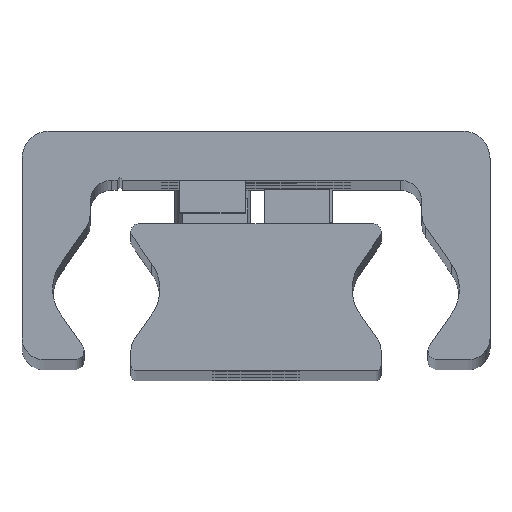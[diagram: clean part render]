
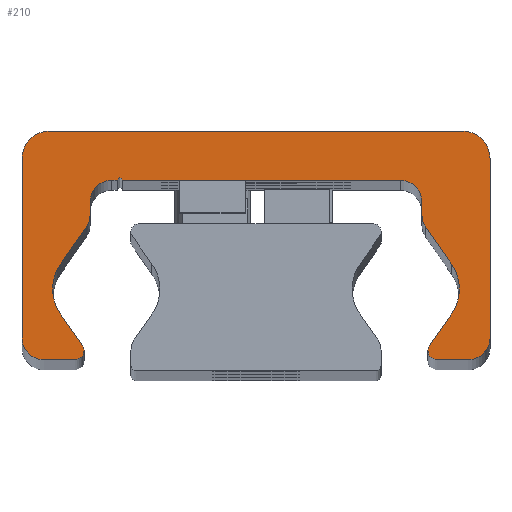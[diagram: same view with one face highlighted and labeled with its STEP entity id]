
A CAD part, top view. The second image highlights one B-rep face of the part: STEP entity #210.
In plain terms, the highlighted planar face has unit normal (0, 0, 1).
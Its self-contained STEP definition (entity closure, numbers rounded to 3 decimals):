
#210=ADVANCED_FACE('',(#536),#537,.T.);
#536=FACE_OUTER_BOUND('',#863,.T.);
#537=PLANE('',#864);
#863=EDGE_LOOP('',(#1986,#1987,#1988,#1989,#1990,#1991,#1992,#1993,#1994,#1995,#1996,#1997,#1998,#1999,#2000,#2001,#2002,#2003,#2004,#2005,#2006,#2007,#2008,#2009,#2010,#2011,#2012,#2013,#2014,#2015));
#864=AXIS2_PLACEMENT_3D('',#2016,#2017,#2018);
#1986=ORIENTED_EDGE('',*,*,#2249,.F.);
#1987=ORIENTED_EDGE('',*,*,#2422,.F.);
#1988=ORIENTED_EDGE('',*,*,#2235,.F.);
#1989=ORIENTED_EDGE('',*,*,#2421,.F.);
#1990=ORIENTED_EDGE('',*,*,#2417,.F.);
#1991=ORIENTED_EDGE('',*,*,#2414,.F.);
#1992=ORIENTED_EDGE('',*,*,#2411,.F.);
#1993=ORIENTED_EDGE('',*,*,#2408,.F.);
#1994=ORIENTED_EDGE('',*,*,#2405,.F.);
#1995=ORIENTED_EDGE('',*,*,#2402,.F.);
#1996=ORIENTED_EDGE('',*,*,#2399,.F.);
#1997=ORIENTED_EDGE('',*,*,#2396,.F.);
#1998=ORIENTED_EDGE('',*,*,#2393,.F.);
#1999=ORIENTED_EDGE('',*,*,#2390,.F.);
#2000=ORIENTED_EDGE('',*,*,#2241,.F.);
#2001=ORIENTED_EDGE('',*,*,#2388,.F.);
#2002=ORIENTED_EDGE('',*,*,#2243,.F.);
#2003=ORIENTED_EDGE('',*,*,#2387,.F.);
#2004=ORIENTED_EDGE('',*,*,#2383,.F.);
#2005=ORIENTED_EDGE('',*,*,#2380,.F.);
#2006=ORIENTED_EDGE('',*,*,#2377,.F.);
#2007=ORIENTED_EDGE('',*,*,#2374,.F.);
#2008=ORIENTED_EDGE('',*,*,#2371,.F.);
#2009=ORIENTED_EDGE('',*,*,#2368,.F.);
#2010=ORIENTED_EDGE('',*,*,#2365,.F.);
#2011=ORIENTED_EDGE('',*,*,#2362,.F.);
#2012=ORIENTED_EDGE('',*,*,#2359,.F.);
#2013=ORIENTED_EDGE('',*,*,#2356,.F.);
#2014=ORIENTED_EDGE('',*,*,#2353,.F.);
#2015=ORIENTED_EDGE('',*,*,#2350,.F.);
#2016=CARTESIAN_POINT('',(-0.023,14.187,530.0));
#2017=DIRECTION('',(0.0,0.0,1.0));
#2018=DIRECTION('',(1.0,0.0,0.0));
#2235=EDGE_CURVE('',#2718,#2721,#2722,.T.);
#2241=EDGE_CURVE('',#2731,#2727,#2733,.T.);
#2243=EDGE_CURVE('',#2734,#2737,#2738,.T.);
#2249=EDGE_CURVE('',#2747,#2743,#2749,.T.);
#2350=EDGE_CURVE('',#2743,#2912,#2913,.T.);
#2353=EDGE_CURVE('',#2912,#2917,#2918,.T.);
#2356=EDGE_CURVE('',#2917,#2922,#2923,.T.);
#2359=EDGE_CURVE('',#2922,#2927,#2928,.T.);
#2362=EDGE_CURVE('',#2927,#2932,#2933,.T.);
#2365=EDGE_CURVE('',#2932,#2937,#2938,.T.);
#2368=EDGE_CURVE('',#2937,#2942,#2943,.T.);
#2371=EDGE_CURVE('',#2942,#2947,#2948,.T.);
#2374=EDGE_CURVE('',#2947,#2952,#2953,.T.);
#2377=EDGE_CURVE('',#2952,#2957,#2958,.T.);
#2380=EDGE_CURVE('',#2957,#2962,#2963,.T.);
#2383=EDGE_CURVE('',#2962,#2967,#2968,.T.);
#2387=EDGE_CURVE('',#2967,#2734,#2973,.T.);
#2388=EDGE_CURVE('',#2737,#2731,#2974,.T.);
#2390=EDGE_CURVE('',#2727,#2976,#2977,.T.);
#2393=EDGE_CURVE('',#2976,#2981,#2982,.T.);
#2396=EDGE_CURVE('',#2981,#2986,#2987,.T.);
#2399=EDGE_CURVE('',#2986,#2991,#2992,.T.);
#2402=EDGE_CURVE('',#2991,#2996,#2997,.T.);
#2405=EDGE_CURVE('',#2996,#3001,#3002,.T.);
#2408=EDGE_CURVE('',#3001,#3006,#3007,.T.);
#2411=EDGE_CURVE('',#3006,#3011,#3012,.T.);
#2414=EDGE_CURVE('',#3011,#3016,#3017,.T.);
#2417=EDGE_CURVE('',#3016,#3021,#3022,.T.);
#2421=EDGE_CURVE('',#3021,#2718,#3027,.T.);
#2422=EDGE_CURVE('',#2721,#2747,#3028,.T.);
#2718=VERTEX_POINT('',#3426);
#2721=VERTEX_POINT('',#3430);
#2722=CIRCLE('',#3431,0.85);
#2727=VERTEX_POINT('',#3437);
#2731=VERTEX_POINT('',#3442);
#2733=CIRCLE('',#3445,0.85);
#2734=VERTEX_POINT('',#3446);
#2737=VERTEX_POINT('',#3450);
#2738=CIRCLE('',#3451,4.);
#2743=VERTEX_POINT('',#3457);
#2747=VERTEX_POINT('',#3462);
#2749=CIRCLE('',#3465,4.);
#2912=VERTEX_POINT('',#3682);
#2913=CIRCLE('',#3683,4.);
#2917=VERTEX_POINT('',#3688);
#2918=LINE('',#3689,#3690);
#2922=VERTEX_POINT('',#3696);
#2923=CIRCLE('',#3697,2.);
#2927=VERTEX_POINT('',#3702);
#2928=LINE('',#3703,#3704);
#2932=VERTEX_POINT('',#3710);
#2933=CIRCLE('',#3711,2.0);
#2937=VERTEX_POINT('',#3716);
#2938=LINE('',#3717,#3718);
#2942=VERTEX_POINT('',#3724);
#2943=CIRCLE('',#3725,0.25);
#2947=VERTEX_POINT('',#3730);
#2948=LINE('',#3731,#3732);
#2952=VERTEX_POINT('',#3738);
#2953=CIRCLE('',#3739,2.0);
#2957=VERTEX_POINT('',#3744);
#2958=LINE('',#3745,#3746);
#2962=VERTEX_POINT('',#3752);
#2963=CIRCLE('',#3753,2.0);
#2967=VERTEX_POINT('',#3758);
#2968=LINE('',#3759,#3760);
#2973=CIRCLE('',#3767,4.);
#2974=LINE('',#3768,#3769);
#2976=VERTEX_POINT('',#3772);
#2977=CIRCLE('',#3773,0.85);
#2981=VERTEX_POINT('',#3778);
#2982=LINE('',#3779,#3780);
#2986=VERTEX_POINT('',#3786);
#2987=CIRCLE('',#3787,2.);
#2991=VERTEX_POINT('',#3792);
#2992=LINE('',#3793,#3794);
#2996=VERTEX_POINT('',#3800);
#2997=CIRCLE('',#3801,2.5);
#3001=VERTEX_POINT('',#3806);
#3002=LINE('',#3807,#3808);
#3006=VERTEX_POINT('',#3814);
#3007=CIRCLE('',#3815,2.5);
#3011=VERTEX_POINT('',#3820);
#3012=LINE('',#3821,#3822);
#3016=VERTEX_POINT('',#3828);
#3017=CIRCLE('',#3829,2.);
#3021=VERTEX_POINT('',#3834);
#3022=LINE('',#3835,#3836);
#3027=CIRCLE('',#3843,0.85);
#3028=LINE('',#3844,#3845);
#3426=CARTESIAN_POINT('',(15.8,1.859,530.0));
#3430=CARTESIAN_POINT('',(15.922,2.298,530.0));
#3431=AXIS2_PLACEMENT_3D('',#4191,#4192,#4193);
#3437=CARTESIAN_POINT('',(-15.8,1.859,530.0));
#3442=CARTESIAN_POINT('',(-15.922,2.298,530.0));
#3445=AXIS2_PLACEMENT_3D('',#4203,#4204,#4205);
#3446=CARTESIAN_POINT('',(-18.688,7.509,530.0));
#3450=CARTESIAN_POINT('',(-17.964,5.214,530.0));
#3451=AXIS2_PLACEMENT_3D('',#4207,#4208,#4209);
#3457=CARTESIAN_POINT('',(18.688,7.509,530.0));
#3462=CARTESIAN_POINT('',(17.964,5.214,530.0));
#3465=AXIS2_PLACEMENT_3D('',#4219,#4220,#4221);
#3682=CARTESIAN_POINT('',(17.964,9.803,530.0));
#3683=AXIS2_PLACEMENT_3D('',#4414,#4415,#4416);
#3688=CARTESIAN_POINT('',(15.612,13.163,530.0));
#3689=CARTESIAN_POINT('',(15.612,13.163,530.0));
#3690=VECTOR('',#4421,1.0);
#3696=CARTESIAN_POINT('',(15.25,14.31,530.0));
#3697=AXIS2_PLACEMENT_3D('',#4424,#4425,#4426);
#3702=CARTESIAN_POINT('',(15.25,15.509,530.0));
#3703=CARTESIAN_POINT('',(15.25,15.509,530.0));
#3704=VECTOR('',#4431,1.0);
#3710=CARTESIAN_POINT('',(13.25,17.509,530.0));
#3711=AXIS2_PLACEMENT_3D('',#4434,#4435,#4436);
#3716=CARTESIAN_POINT('',(-12.25,17.509,530.0));
#3717=CARTESIAN_POINT('',(-12.25,17.509,530.0));
#3718=VECTOR('',#4441,1.0);
#3724=CARTESIAN_POINT('',(-12.75,17.509,530.0));
#3725=AXIS2_PLACEMENT_3D('',#4444,#4445,#4446);
#3730=CARTESIAN_POINT('',(-13.25,17.509,530.0));
#3731=CARTESIAN_POINT('',(-13.25,17.509,530.0));
#3732=VECTOR('',#4451,1.0);
#3738=CARTESIAN_POINT('',(-15.25,15.509,530.0));
#3739=AXIS2_PLACEMENT_3D('',#4454,#4455,#4456);
#3744=CARTESIAN_POINT('',(-15.25,14.31,530.0));
#3745=CARTESIAN_POINT('',(-15.25,14.31,530.0));
#3746=VECTOR('',#4461,1.0);
#3752=CARTESIAN_POINT('',(-15.612,13.163,530.0));
#3753=AXIS2_PLACEMENT_3D('',#4464,#4465,#4466);
#3758=CARTESIAN_POINT('',(-17.964,9.803,530.0));
#3759=CARTESIAN_POINT('',(-17.964,9.803,530.0));
#3760=VECTOR('',#4471,1.0);
#3767=AXIS2_PLACEMENT_3D('',#4477,#4478,#4479);
#3768=CARTESIAN_POINT('',(-15.922,2.298,530.0));
#3769=VECTOR('',#4480,1.0);
#3772=CARTESIAN_POINT('',(-16.65,1.009,530.0));
#3773=AXIS2_PLACEMENT_3D('',#4482,#4483,#4484);
#3778=CARTESIAN_POINT('',(-19.5,1.009,530.0));
#3779=CARTESIAN_POINT('',(-19.5,1.009,530.0));
#3780=VECTOR('',#4489,1.0);
#3786=CARTESIAN_POINT('',(-21.5,3.009,530.0));
#3787=AXIS2_PLACEMENT_3D('',#4492,#4493,#4494);
#3792=CARTESIAN_POINT('',(-21.5,19.509,530.0));
#3793=CARTESIAN_POINT('',(-21.5,19.509,530.0));
#3794=VECTOR('',#4499,1.0);
#3800=CARTESIAN_POINT('',(-19.0,22.009,530.0));
#3801=AXIS2_PLACEMENT_3D('',#4502,#4503,#4504);
#3806=CARTESIAN_POINT('',(19.0,22.009,530.0));
#3807=CARTESIAN_POINT('',(19.0,22.009,530.0));
#3808=VECTOR('',#4509,1.0);
#3814=CARTESIAN_POINT('',(21.5,19.509,530.0));
#3815=AXIS2_PLACEMENT_3D('',#4512,#4513,#4514);
#3820=CARTESIAN_POINT('',(21.5,3.009,530.0));
#3821=CARTESIAN_POINT('',(21.5,3.009,530.0));
#3822=VECTOR('',#4519,1.0);
#3828=CARTESIAN_POINT('',(19.5,1.009,530.0));
#3829=AXIS2_PLACEMENT_3D('',#4522,#4523,#4524);
#3834=CARTESIAN_POINT('',(16.65,1.009,530.0));
#3835=CARTESIAN_POINT('',(16.65,1.009,530.0));
#3836=VECTOR('',#4529,1.0);
#3843=AXIS2_PLACEMENT_3D('',#4535,#4536,#4537);
#3844=CARTESIAN_POINT('',(17.964,5.214,530.0));
#3845=VECTOR('',#4538,1.0);
#4191=CARTESIAN_POINT('',(16.65,1.859,530.0));
#4192=DIRECTION('',(0.0,0.0,-1.0));
#4193=DIRECTION('',(1.0,0.0,0.0));
#4203=CARTESIAN_POINT('',(-16.65,1.859,530.0));
#4204=DIRECTION('',(0.0,0.0,-1.0));
#4205=DIRECTION('',(1.0,0.0,0.0));
#4207=CARTESIAN_POINT('',(-14.688,7.509,530.0));
#4208=DIRECTION('',(0.0,0.0,1.0));
#4209=DIRECTION('',(1.0,0.0,0.0));
#4219=CARTESIAN_POINT('',(14.688,7.509,530.0));
#4220=DIRECTION('',(0.0,0.0,1.0));
#4221=DIRECTION('',(1.0,0.0,0.0));
#4414=CARTESIAN_POINT('',(14.688,7.509,530.0));
#4415=DIRECTION('',(0.0,0.0,1.0));
#4416=DIRECTION('',(1.0,0.0,0.0));
#4421=DIRECTION('',(-0.574,0.819,0.0));
#4424=CARTESIAN_POINT('',(17.25,14.31,530.0));
#4425=DIRECTION('',(0.0,0.0,-1.0));
#4426=DIRECTION('',(1.0,0.0,0.0));
#4431=DIRECTION('',(0.0,1.0,0.0));
#4434=CARTESIAN_POINT('',(13.25,15.509,530.0));
#4435=DIRECTION('',(0.0,0.0,1.0));
#4436=DIRECTION('',(1.0,0.0,0.0));
#4441=DIRECTION('',(-1.0,-0.0,-0.0));
#4444=CARTESIAN_POINT('',(-12.5,17.509,530.0));
#4445=DIRECTION('',(0.0,0.0,1.0));
#4446=DIRECTION('',(1.0,0.0,0.0));
#4451=DIRECTION('',(-1.0,-0.0,-0.0));
#4454=CARTESIAN_POINT('',(-13.25,15.509,530.0));
#4455=DIRECTION('',(0.0,0.0,1.0));
#4456=DIRECTION('',(1.0,0.0,0.0));
#4461=DIRECTION('',(-0.0,-1.0,-0.0));
#4464=CARTESIAN_POINT('',(-17.25,14.31,530.0));
#4465=DIRECTION('',(0.0,0.0,-1.0));
#4466=DIRECTION('',(1.0,0.0,0.0));
#4471=DIRECTION('',(-0.574,-0.819,-0.0));
#4477=CARTESIAN_POINT('',(-14.688,7.509,530.0));
#4478=DIRECTION('',(0.0,0.0,1.0));
#4479=DIRECTION('',(1.0,0.0,0.0));
#4480=DIRECTION('',(0.574,-0.819,0.0));
#4482=CARTESIAN_POINT('',(-16.65,1.859,530.0));
#4483=DIRECTION('',(0.0,0.0,-1.0));
#4484=DIRECTION('',(1.0,0.0,0.0));
#4489=DIRECTION('',(-1.0,-0.0,-0.0));
#4492=CARTESIAN_POINT('',(-19.5,3.009,530.0));
#4493=DIRECTION('',(0.0,0.0,-1.0));
#4494=DIRECTION('',(1.0,0.0,0.0));
#4499=DIRECTION('',(0.0,1.0,0.0));
#4502=CARTESIAN_POINT('',(-19.0,19.509,530.0));
#4503=DIRECTION('',(0.0,0.0,-1.0));
#4504=DIRECTION('',(1.0,0.0,0.0));
#4509=DIRECTION('',(1.0,0.0,0.0));
#4512=CARTESIAN_POINT('',(19.0,19.509,530.0));
#4513=DIRECTION('',(0.0,0.0,-1.0));
#4514=DIRECTION('',(1.0,0.0,0.0));
#4519=DIRECTION('',(-0.0,-1.0,-0.0));
#4522=CARTESIAN_POINT('',(19.5,3.009,530.0));
#4523=DIRECTION('',(0.0,0.0,-1.0));
#4524=DIRECTION('',(1.0,0.0,0.0));
#4529=DIRECTION('',(-1.0,-0.0,-0.0));
#4535=CARTESIAN_POINT('',(16.65,1.859,530.0));
#4536=DIRECTION('',(0.0,0.0,-1.0));
#4537=DIRECTION('',(1.0,0.0,0.0));
#4538=DIRECTION('',(0.574,0.819,0.0));
